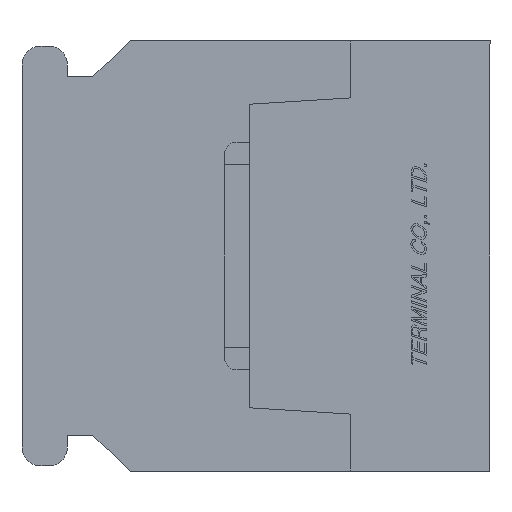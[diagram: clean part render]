
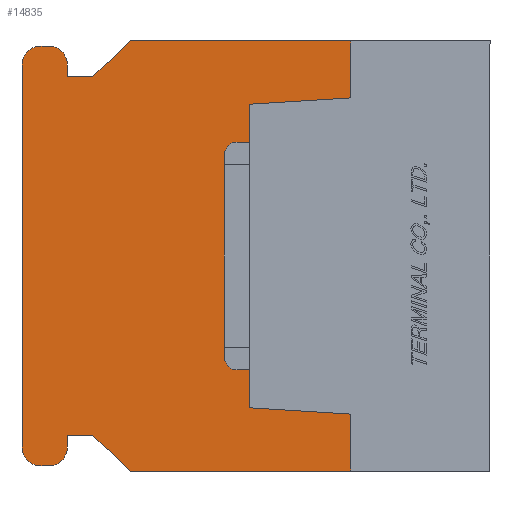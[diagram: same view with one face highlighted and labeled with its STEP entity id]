
A CAD part, left-side view. The second image highlights one B-rep face of the part: STEP entity #14835.
In plain terms, the highlighted planar face has unit normal (-1, 0, 0).
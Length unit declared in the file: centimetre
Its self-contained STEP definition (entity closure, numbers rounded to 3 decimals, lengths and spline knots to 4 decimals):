
#1090=VECTOR('',#16642,1.);
#1144=VECTOR('',#16722,1.);
#1339=VECTOR('',#17089,1.);
#1340=VECTOR('',#17090,1.);
#1341=VECTOR('',#17091,1.);
#1342=VECTOR('',#17092,1.);
#1343=VECTOR('',#17095,1.);
#1344=VECTOR('',#17098,1.);
#1345=VECTOR('',#17101,1.);
#1346=VECTOR('',#17104,1.);
#1347=VECTOR('',#17105,1.);
#1348=VECTOR('',#17106,1.);
#1349=VECTOR('',#17107,1.);
#1350=VECTOR('',#17108,1.);
#1351=VECTOR('',#17109,1.);
#1352=VECTOR('',#17110,1.);
#2698=LINE('',#20133,#1090);
#2752=LINE('',#20248,#1144);
#2947=LINE('',#20705,#1339);
#2948=LINE('',#20707,#1340);
#2949=LINE('',#20709,#1341);
#2950=LINE('',#20711,#1342);
#2951=LINE('',#20715,#1343);
#2952=LINE('',#20719,#1344);
#2953=LINE('',#20723,#1345);
#2954=LINE('',#20727,#1346);
#2955=LINE('',#20729,#1347);
#2956=LINE('',#20731,#1348);
#2957=LINE('',#20732,#1349);
#2958=LINE('',#20734,#1350);
#2959=LINE('',#20736,#1351);
#2960=LINE('',#20738,#1352);
#4119=PLANE('',#24597);
#4960=VERTEX_POINT('',#20132);
#4961=VERTEX_POINT('',#20134);
#5003=VERTEX_POINT('',#20247);
#5004=VERTEX_POINT('',#20249);
#5144=VERTEX_POINT('',#20706);
#5145=VERTEX_POINT('',#20708);
#5146=VERTEX_POINT('',#20710);
#5147=VERTEX_POINT('',#20712);
#5148=VERTEX_POINT('',#20714);
#5149=VERTEX_POINT('',#20716);
#5150=VERTEX_POINT('',#20718);
#5151=VERTEX_POINT('',#20720);
#5152=VERTEX_POINT('',#20722);
#5153=VERTEX_POINT('',#20724);
#5154=VERTEX_POINT('',#20726);
#5155=VERTEX_POINT('',#20728);
#5156=VERTEX_POINT('',#20730);
#5157=VERTEX_POINT('',#20733);
#5158=VERTEX_POINT('',#20735);
#5159=VERTEX_POINT('',#20737);
#6111=CIRCLE('',#24598,0.075);
#6112=CIRCLE('',#24599,0.075);
#6113=CIRCLE('',#24600,0.075);
#6114=CIRCLE('',#24601,0.075);
#6897=EDGE_CURVE('',#4960,#4961,#2698,.T.);
#6955=EDGE_CURVE('',#5003,#5004,#2752,.T.);
#7184=EDGE_CURVE('',#5144,#5004,#2947,.T.);
#7185=EDGE_CURVE('',#5145,#5003,#2948,.T.);
#7186=EDGE_CURVE('',#5146,#5145,#2949,.T.);
#7187=EDGE_CURVE('',#5147,#5146,#2950,.T.);
#7188=EDGE_CURVE('',#5148,#5147,#6111,.T.);
#7189=EDGE_CURVE('',#5149,#5148,#2951,.T.);
#7190=EDGE_CURVE('',#5150,#5149,#6112,.T.);
#7191=EDGE_CURVE('',#5151,#5150,#2952,.T.);
#7192=EDGE_CURVE('',#5152,#5151,#6113,.T.);
#7193=EDGE_CURVE('',#5153,#5152,#2953,.T.);
#7194=EDGE_CURVE('',#5154,#5153,#6114,.T.);
#7195=EDGE_CURVE('',#5155,#5154,#2954,.T.);
#7196=EDGE_CURVE('',#5156,#5155,#2955,.T.);
#7197=EDGE_CURVE('',#4961,#5156,#2956,.T.);
#7198=EDGE_CURVE('',#4960,#5157,#2957,.T.);
#7199=EDGE_CURVE('',#5157,#5158,#2958,.T.);
#7200=EDGE_CURVE('',#5158,#5159,#2959,.T.);
#7201=EDGE_CURVE('',#5159,#5144,#2960,.T.);
#10334=ORIENTED_EDGE('',*,*,#7184,.T.);
#10335=ORIENTED_EDGE('',*,*,#6955,.F.);
#10336=ORIENTED_EDGE('',*,*,#7185,.F.);
#10337=ORIENTED_EDGE('',*,*,#7186,.F.);
#10338=ORIENTED_EDGE('',*,*,#7187,.F.);
#10339=ORIENTED_EDGE('',*,*,#7188,.F.);
#10340=ORIENTED_EDGE('',*,*,#7189,.F.);
#10341=ORIENTED_EDGE('',*,*,#7190,.F.);
#10342=ORIENTED_EDGE('',*,*,#7191,.F.);
#10343=ORIENTED_EDGE('',*,*,#7192,.F.);
#10344=ORIENTED_EDGE('',*,*,#7193,.F.);
#10345=ORIENTED_EDGE('',*,*,#7194,.F.);
#10346=ORIENTED_EDGE('',*,*,#7195,.F.);
#10347=ORIENTED_EDGE('',*,*,#7196,.F.);
#10348=ORIENTED_EDGE('',*,*,#7197,.F.);
#10349=ORIENTED_EDGE('',*,*,#6897,.F.);
#10350=ORIENTED_EDGE('',*,*,#7198,.T.);
#10351=ORIENTED_EDGE('',*,*,#7199,.T.);
#10352=ORIENTED_EDGE('',*,*,#7200,.T.);
#10353=ORIENTED_EDGE('',*,*,#7201,.T.);
#13081=EDGE_LOOP('',(#10334,#10335,#10336,#10337,#10338,#10339,#10340,#10341,
#10342,#10343,#10344,#10345,#10346,#10347,#10348,#10349,#10350,#10351,#10352,
#10353));
#13985=FACE_BOUND('',#13081,.T.);
#14835=ADVANCED_FACE('',(#13985),#4119,.F.);
#16642=DIRECTION('',(0.,1.,0.));
#16722=DIRECTION('',(0.,-1.,0.));
#17088=DIRECTION('',(1.,0.,0.));
#17089=DIRECTION('',(0.,0.,1.));
#17090=DIRECTION('',(0.,-0.731,0.682));
#17091=DIRECTION('',(0.,-1.,0.));
#17092=DIRECTION('',(0.,0.,-1.));
#17093=DIRECTION('',(1.,0.,0.));
#17094=DIRECTION('',(0.,0.,-0.075));
#17095=DIRECTION('',(0.,-1.,0.));
#17096=DIRECTION('',(1.,0.,0.));
#17097=DIRECTION('',(0.,0.,-0.075));
#17098=DIRECTION('',(0.,0.,1.));
#17099=DIRECTION('',(1.,0.,0.));
#17100=DIRECTION('',(0.,0.,-0.075));
#17101=DIRECTION('',(0.,1.,0.));
#17102=DIRECTION('',(1.,0.,0.));
#17103=DIRECTION('',(0.,0.,-0.075));
#17104=DIRECTION('',(0.,0.,-1.));
#17105=DIRECTION('',(0.,1.,0.));
#17106=DIRECTION('',(0.,0.731,0.682));
#17107=DIRECTION('',(0.,0.,1.));
#17108=DIRECTION('',(0.,0.998,0.062));
#17109=DIRECTION('',(0.,0.,1.));
#17110=DIRECTION('',(0.,-0.998,0.062));
#20132=CARTESIAN_POINT('',(-1.,0.55,-0.85));
#20133=CARTESIAN_POINT('',(-1.,0.,-0.85));
#20134=CARTESIAN_POINT('',(-1.,1.42,-0.85));
#20247=CARTESIAN_POINT('',(-1.,1.42,0.85));
#20248=CARTESIAN_POINT('',(-1.,1.42,0.85));
#20249=CARTESIAN_POINT('',(-1.,0.55,0.85));
#20704=CARTESIAN_POINT('',(-1.,0.9383,0.));
#20705=CARTESIAN_POINT('',(-1.,0.55,0.3687));
#20706=CARTESIAN_POINT('',(-1.,0.55,0.625));
#20707=CARTESIAN_POINT('',(-1.,1.57,0.71));
#20708=CARTESIAN_POINT('',(-1.,1.57,0.71));
#20709=CARTESIAN_POINT('',(-1.,1.67,0.71));
#20710=CARTESIAN_POINT('',(-1.,1.67,0.71));
#20711=CARTESIAN_POINT('',(-1.,1.67,0.755));
#20712=CARTESIAN_POINT('',(-1.,1.67,0.755));
#20713=CARTESIAN_POINT('',(-1.,1.745,0.755));
#20714=CARTESIAN_POINT('',(-1.,1.745,0.83));
#20715=CARTESIAN_POINT('',(-1.,1.775,0.83));
#20716=CARTESIAN_POINT('',(-1.,1.775,0.83));
#20717=CARTESIAN_POINT('',(-1.,1.775,0.755));
#20718=CARTESIAN_POINT('',(-1.,1.85,0.755));
#20719=CARTESIAN_POINT('',(-1.,1.85,-0.755));
#20720=CARTESIAN_POINT('',(-1.,1.85,-0.755));
#20721=CARTESIAN_POINT('',(-1.,1.775,-0.755));
#20722=CARTESIAN_POINT('',(-1.,1.775,-0.83));
#20723=CARTESIAN_POINT('',(-1.,1.745,-0.83));
#20724=CARTESIAN_POINT('',(-1.,1.745,-0.83));
#20725=CARTESIAN_POINT('',(-1.,1.745,-0.755));
#20726=CARTESIAN_POINT('',(-1.,1.67,-0.755));
#20727=CARTESIAN_POINT('',(-1.,1.67,-0.71));
#20728=CARTESIAN_POINT('',(-1.,1.67,-0.71));
#20729=CARTESIAN_POINT('',(-1.,1.57,-0.71));
#20730=CARTESIAN_POINT('',(-1.,1.57,-0.71));
#20731=CARTESIAN_POINT('',(-1.,1.42,-0.85));
#20732=CARTESIAN_POINT('',(-1.,0.55,-0.3688));
#20733=CARTESIAN_POINT('',(-1.,0.55,-0.625));
#20734=CARTESIAN_POINT('',(-1.,0.8629,-0.6054));
#20735=CARTESIAN_POINT('',(-1.,0.95,-0.6));
#20736=CARTESIAN_POINT('',(-1.,0.95,0.));
#20737=CARTESIAN_POINT('',(-1.,0.95,0.6));
#20738=CARTESIAN_POINT('',(-1.,0.8629,0.6054));
#24597=AXIS2_PLACEMENT_3D('',#20704,#17088,$);
#24598=AXIS2_PLACEMENT_3D('',#20713,#17093,#17094);
#24599=AXIS2_PLACEMENT_3D('',#20717,#17096,#17097);
#24600=AXIS2_PLACEMENT_3D('',#20721,#17099,#17100);
#24601=AXIS2_PLACEMENT_3D('',#20725,#17102,#17103);
